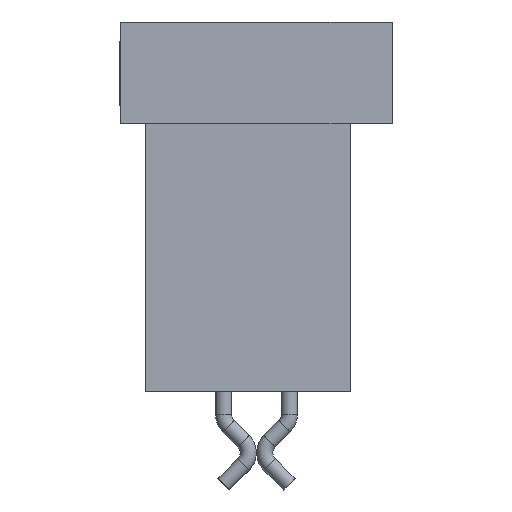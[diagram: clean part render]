
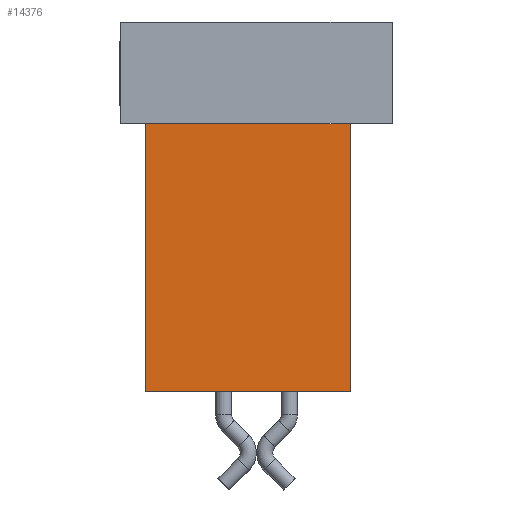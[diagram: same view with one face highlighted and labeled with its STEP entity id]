
A CAD part, left-side view. The second image highlights one B-rep face of the part: STEP entity #14376.
In plain terms, the highlighted planar face has unit normal (-1, 0, 0).
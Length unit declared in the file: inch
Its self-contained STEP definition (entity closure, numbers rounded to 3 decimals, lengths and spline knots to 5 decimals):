
#279 = EDGE_CURVE ( 'NONE', #8667, #11155, #9092, .T. ) ;
#2616 = CARTESIAN_POINT ( 'NONE',  ( -0.225, 0.0675, -0.062 ) ) ;
#3564 = DIRECTION ( 'NONE',  ( 0., 0., 1. ) ) ;
#5217 = EDGE_CURVE ( 'NONE', #11155, #30666, #8815, .T. ) ;
#5375 = ORIENTED_EDGE ( 'NONE', *, *, #279, .T. ) ;
#6828 = VECTOR ( 'NONE', #3564, 39.37008 ) ;
#7076 = VECTOR ( 'NONE', #24341, 39.37008 ) ;
#8667 = VERTEX_POINT ( 'NONE', #16764 ) ;
#8815 = LINE ( 'NONE', #16480, #6828 ) ;
#9092 = LINE ( 'NONE', #24667, #7076 ) ;
#9257 = DIRECTION ( 'NONE',  ( 0., -1., 0. ) ) ;
#9567 = LINE ( 'NONE', #25138, #25867 ) ;
#11155 = VERTEX_POINT ( 'NONE', #15491 ) ;
#11549 = CARTESIAN_POINT ( 'NONE',  ( -0.225, 0.0675, -0.225 ) ) ;
#12702 = DIRECTION ( 'NONE',  ( 0., 0., 1. ) ) ;
#13935 = FACE_OUTER_BOUND ( 'NONE', #24422, .T. ) ;
#14376 = ADVANCED_FACE ( 'NONE', ( #13935 ), #22016, .T. ) ;
#15039 = EDGE_CURVE ( 'NONE', #8667, #15741, #15635, .T. ) ;
#15491 = CARTESIAN_POINT ( 'NONE',  ( -0.225, -0.0575, -0.225 ) ) ;
#15635 = LINE ( 'NONE', #25710, #30737 ) ;
#15741 = VERTEX_POINT ( 'NONE', #2616 ) ;
#16480 = CARTESIAN_POINT ( 'NONE',  ( -0.225, -0.0575, -0.225 ) ) ;
#16764 = CARTESIAN_POINT ( 'NONE',  ( -0.225, 0.0675, -0.225 ) ) ;
#21421 = CARTESIAN_POINT ( 'NONE',  ( -0.225, -0.0575, -0.062 ) ) ;
#22016 = PLANE ( 'NONE',  #26086 ) ;
#24341 = DIRECTION ( 'NONE',  ( 0., -1., 0. ) ) ;
#24422 = EDGE_LOOP ( 'NONE', ( #29872, #28890, #5375, #33337 ) ) ;
#24667 = CARTESIAN_POINT ( 'NONE',  ( -0.225, 0.0675, -0.225 ) ) ;
#25138 = CARTESIAN_POINT ( 'NONE',  ( -0.225, 0.0675, -0.062 ) ) ;
#25710 = CARTESIAN_POINT ( 'NONE',  ( -0.225, 0.0675, -0.225 ) ) ;
#25867 = VECTOR ( 'NONE', #9257, 39.37008 ) ;
#26086 = AXIS2_PLACEMENT_3D ( 'NONE', #11549, #32275, #29743 ) ;
#28890 = ORIENTED_EDGE ( 'NONE', *, *, #15039, .F. ) ;
#29743 = DIRECTION ( 'NONE',  ( 0., -1., 0. ) ) ;
#29872 = ORIENTED_EDGE ( 'NONE', *, *, #31707, .F. ) ;
#30666 = VERTEX_POINT ( 'NONE', #21421 ) ;
#30737 = VECTOR ( 'NONE', #12702, 39.37008 ) ;
#31707 = EDGE_CURVE ( 'NONE', #15741, #30666, #9567, .T. ) ;
#32275 = DIRECTION ( 'NONE',  ( -1., 0., 0. ) ) ;
#33337 = ORIENTED_EDGE ( 'NONE', *, *, #5217, .T. ) ;
